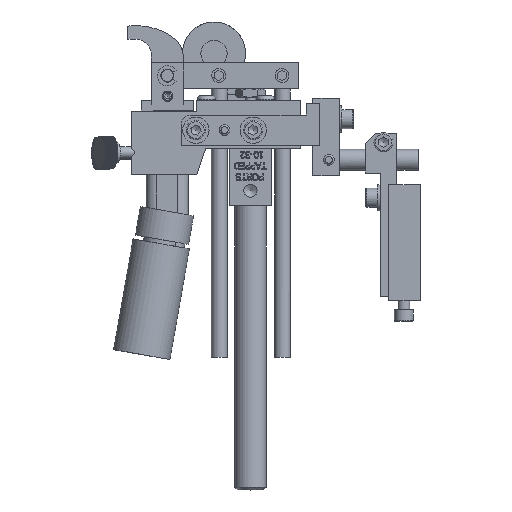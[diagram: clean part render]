
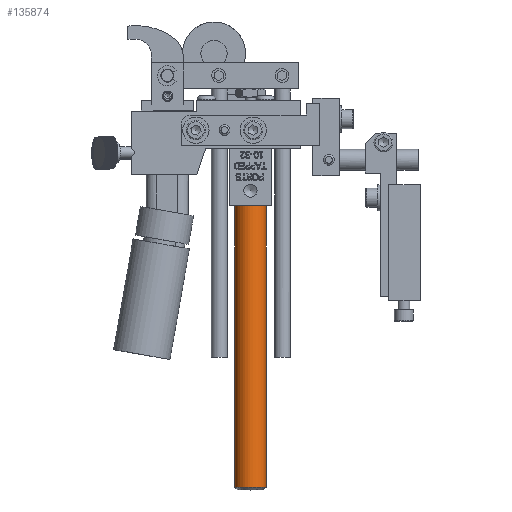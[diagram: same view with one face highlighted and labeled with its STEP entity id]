
A CAD part, top view. The second image highlights one B-rep face of the part: STEP entity #135874.
In plain terms, the highlighted cylindrical face has radius 4.763 mm (diameter 9.525 mm), a full revolution.
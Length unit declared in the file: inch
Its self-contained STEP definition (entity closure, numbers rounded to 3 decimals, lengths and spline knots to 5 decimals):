
#135672=CARTESIAN_POINT('',(0.44163,-1.58733,-0.0475));
#135673=VERTEX_POINT('',#135672);
#135674=CARTESIAN_POINT('',(0.44163,-1.58733,-0.235));
#135675=DIRECTION('',(0.0,1.0,0.0));
#135676=DIRECTION('',(0.0,0.0,-1.0));
#135677=AXIS2_PLACEMENT_3D('',#135674,#135675,#135676);
#135678=CIRCLE('',#135677,0.1875);
#135679=EDGE_CURVE('',#135673,#135673,#135678,.T.);
#135855=CARTESIAN_POINT('',(0.44163,-1.58733,-0.235));
#135856=DIRECTION('',(0.,-1.0,0.));
#135857=DIRECTION('',(0.0,0.0,-1.0));
#135858=AXIS2_PLACEMENT_3D('',#135855,#135856,#135857);
#135859=CYLINDRICAL_SURFACE('',#135858,0.1875);
#135860=ORIENTED_EDGE('',*,*,#135679,.F.);
#135861=EDGE_LOOP('',(#135860));
#135862=FACE_OUTER_BOUND('',#135861,.T.);
#135863=CARTESIAN_POINT('',(0.44163,-4.93233,-0.0475));
#135864=VERTEX_POINT('',#135863);
#135865=CARTESIAN_POINT('',(0.44163,-4.93233,-0.235));
#135866=DIRECTION('',(0.0,-1.0,0.0));
#135867=DIRECTION('',(0.0,0.0,-1.0));
#135868=AXIS2_PLACEMENT_3D('',#135865,#135866,#135867);
#135869=CIRCLE('',#135868,0.1875);
#135870=EDGE_CURVE('',#135864,#135864,#135869,.T.);
#135871=ORIENTED_EDGE('',*,*,#135870,.F.);
#135872=EDGE_LOOP('',(#135871));
#135873=FACE_BOUND('',#135872,.T.);
#135874=ADVANCED_FACE('',(#135862,#135873),#135859,.T.);
